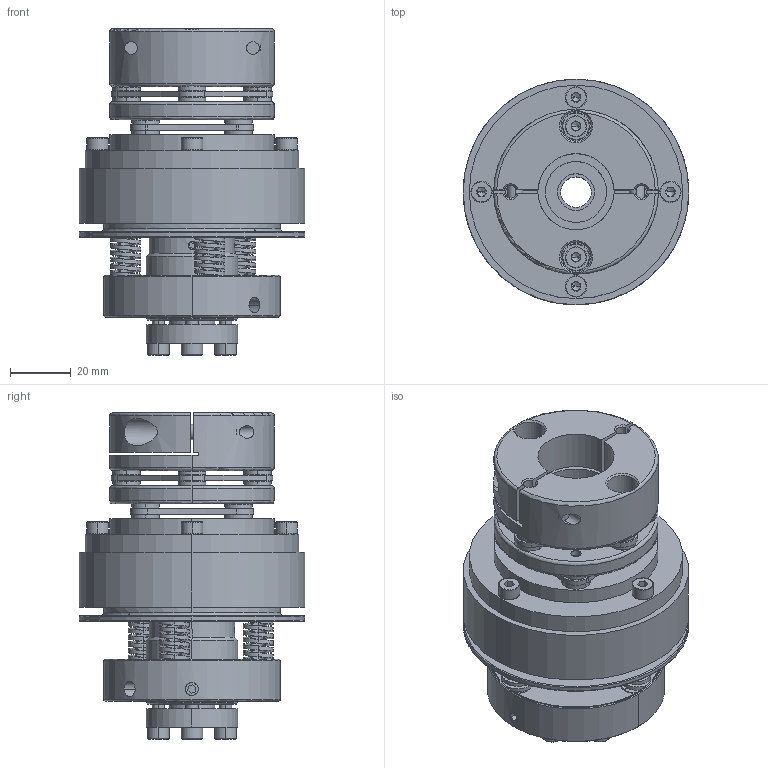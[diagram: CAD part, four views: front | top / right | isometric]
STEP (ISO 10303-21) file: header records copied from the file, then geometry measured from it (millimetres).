
FILE_DESCRIPTION (( 'STEP AP203' ), '1' );
FILE_NAME ('STL25-L-TS1.5-C25-P12.STEP', '2019-06-03T03:03:01', ( '' ), ( '' ), 'SwSTEP 2.0', 'SolidWorks 2015', '' );
FILE_SCHEMA (( 'CONFIG_CONTROL_DESIGN' ));
Length unit declared in the file: millimetre
Products named in the file (1): STL25-L-TS1.5-C25-P12
Bounding box: 74 x 74 x 107.1 mm (x, y, z)
Volume: 199691.2 mm3; surface area: 70163.3 mm2
Topology: 15 solids, 22 shells, 1272 faces, 3100 edges, 1914 vertices
Faces by surface type: cylinder 492, plane 410, cone 176, torus 100, bspline 94
Entity records: 59332 total; most frequent: CARTESIAN_POINT 29690, DIRECTION 6320, ORIENTED_EDGE 6092, EDGE_CURVE 3046, AXIS2_PLACEMENT_3D 2527, VERTEX_POINT 1914, EDGE_LOOP 1444, CIRCLE 1348
